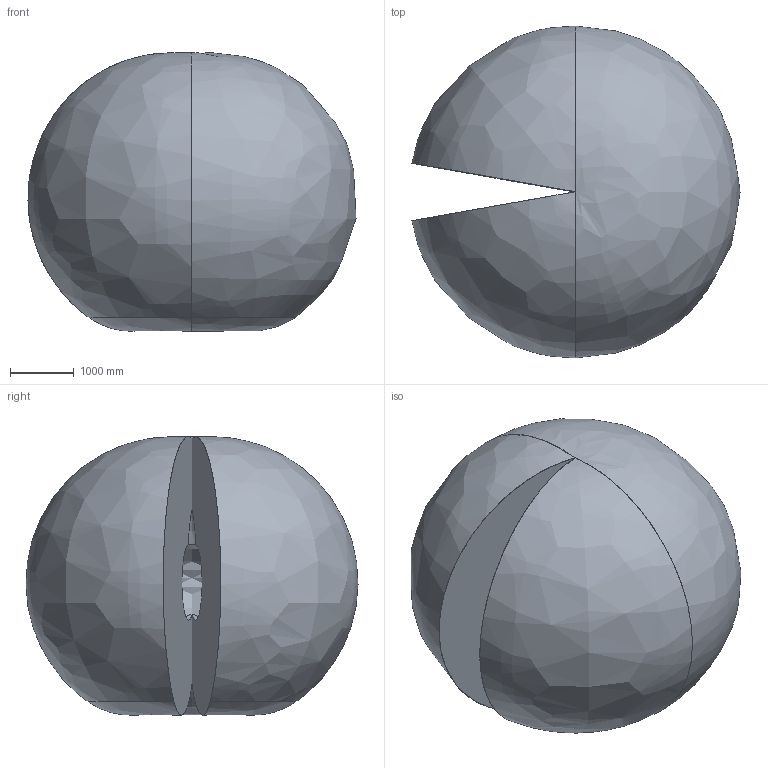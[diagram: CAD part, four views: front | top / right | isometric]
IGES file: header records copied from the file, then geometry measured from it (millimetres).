
Start section: SolidWorks IGES file using analytic representation for surfaces
Global section: file name: C:\Users\SEALDUN\OneDrive - ABB\Documents\R&D Robotics\Work Items\WI 632927 light weight hole removal\IGES\IRB5720-MH3_180kg-260_OC_03_IGES_J\IRB5720-MH3_180kg-260_OmniCore_rev00_Working-space.igs; native system: SolidWorks 2024; preprocessor: SolidWorks 2024; author: SEALDUN; date: 250708.132525; units: millimetre
Bounding box: 5138.29 x 5199.38 x 4357.08 mm (x, y, z)
Surface area: 101030006.4 mm2 (no closed solid volume)
Topology: 0 solids, 0 shells, 14 faces, 228 edges, 216 vertices
Faces by surface type: bspline 14
